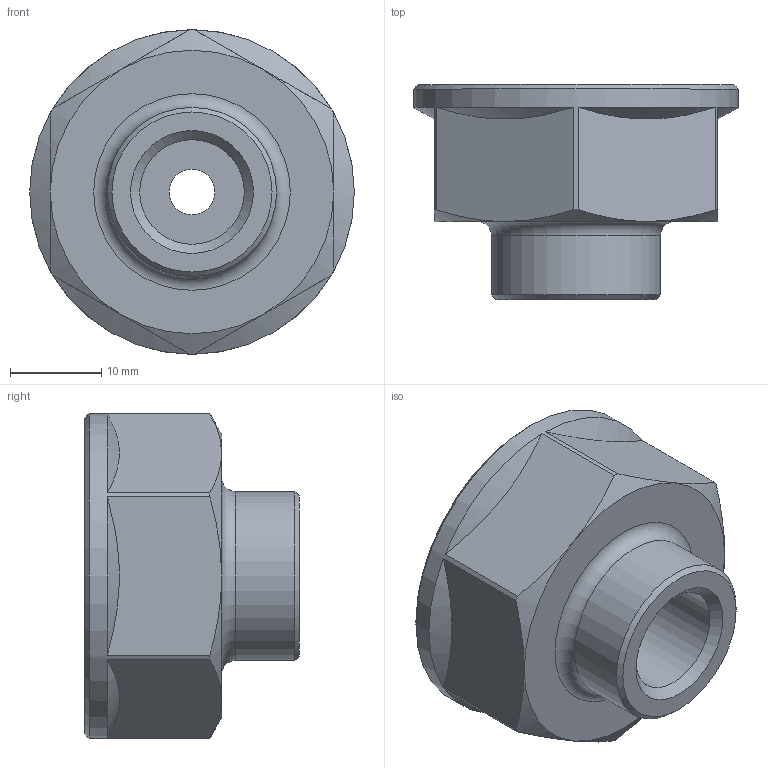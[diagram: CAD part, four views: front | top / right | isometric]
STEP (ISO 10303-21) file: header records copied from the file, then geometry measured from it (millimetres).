
FILE_DESCRIPTION(('STEP AP203'), '1');
FILE_NAME('ﾂﾐ.714361.013 - VTr.240.N.0502 ﾌ G 3-4xG1-4', '2024-08-01T08:36:55', ('Boss'), (''), 'C3D Converter', 'C3D Toolkit', '');
FILE_SCHEMA(('CONFIG_CONTROL_DESIGN'));
Length unit declared in the file: millimetre
Products named in the file (1): ВР.714361.013
Bounding box: 35.5 x 23.5 x 35.5 mm (x, y, z)
Volume: 8444.7 mm3; surface area: 5083 mm2
Topology: 1 solids, 1 shells, 33 faces, 73 edges, 45 vertices
Faces by surface type: cone 16, plane 11, cylinder 5, torus 1
Full cylindrical faces by diameter (mm): 5 x1, 11.445 x1, 18.5 x1, 24.118 x1, 35.5 x1
Entity records: 1401 total; most frequent: CARTESIAN_POINT 739, DIRECTION 134, ORIENTED_EDGE 114, AXIS2_PLACEMENT_3D 61, EDGE_CURVE 57, EDGE_LOOP 45, VERTEX_POINT 42, ADVANCED_FACE 30
